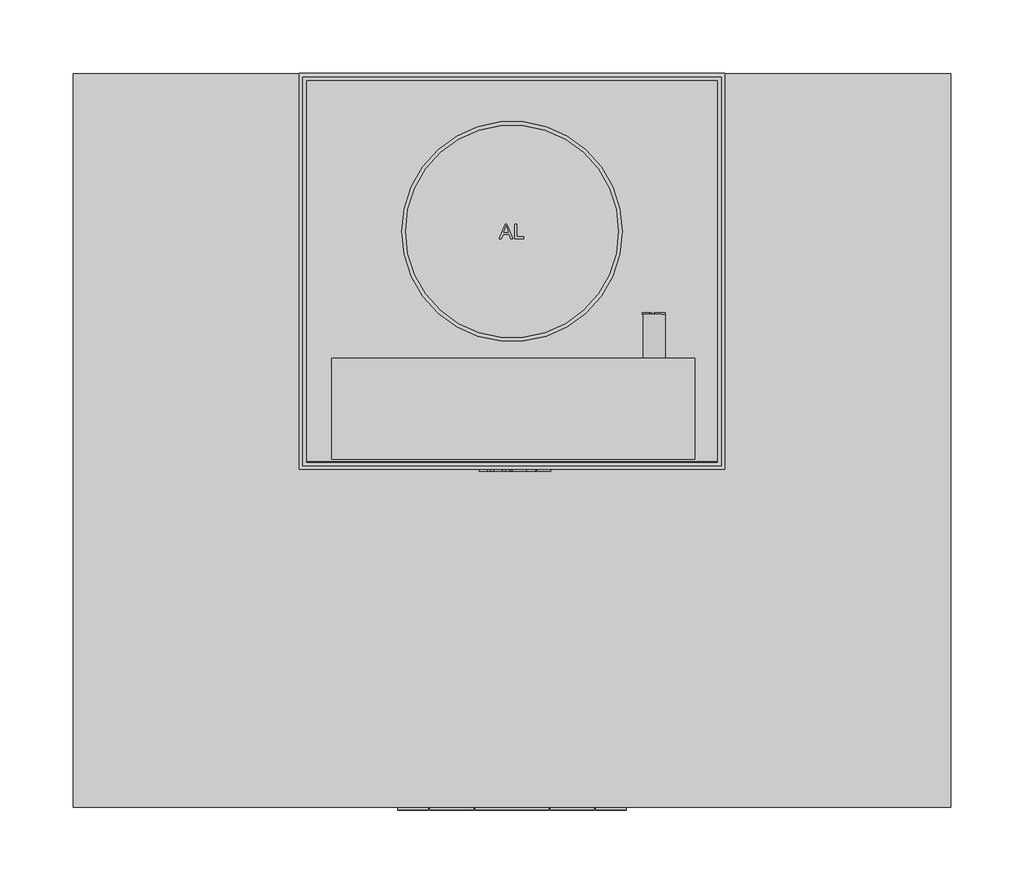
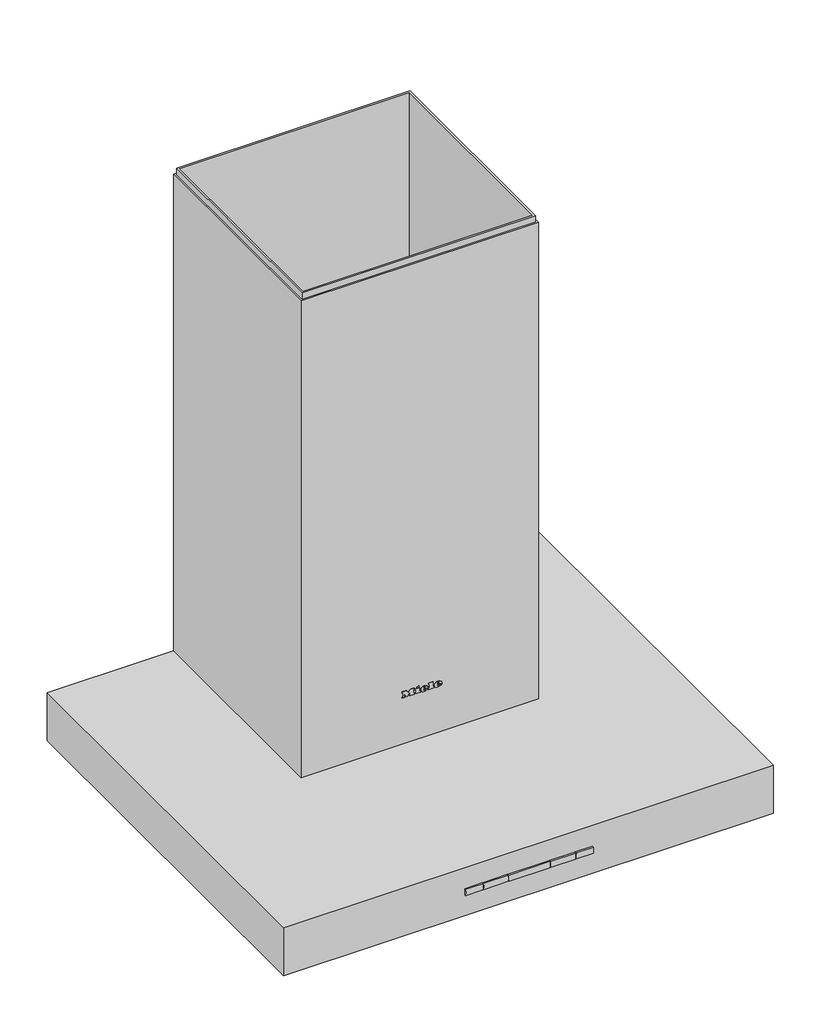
# Not in any storey: 1 proxy.
"""IFC4 building model written with IfcOpenShell, lengths in millimetres."""

import ifcopenshell
import ifcopenshell.guid

model = None  # the IFC model being written
_history = None  # IfcOwnerHistory: only IFC2X3 demands one
_inside = {}  # id of a spatial element -> (the spatial element, [elements in it])
_under = {}  # id of a project, library or spatial element -> (it, [spatial elements below it])
_declared = {}  # id of a project -> (the project, [libraries it declares])
_typed = {}  # id of a type object -> (the type object, [elements of that type])
_made_of = {}  # id of a material, layer set ... -> (it, [elements and type objects made of it])


def new_model(schema):
    """Start an empty IFC model of exactly this schema.

    Asked for "IFC4X3", IfcOpenShell would pick the latest addendum, in which some entities
    have other attributes; the version numbers below select the first issue.
    IFC2X3 requires an IfcOwnerHistory on every rooted entity: one is made here for all.
    """
    global model, _history
    if schema == "IFC4X3":
        model = ifcopenshell.file(schema_version=(4, 3, 0, 0))
    else:
        model = ifcopenshell.file(schema=schema)
    _inside.clear()
    _under.clear()
    _declared.clear()
    _typed.clear()
    _made_of.clear()
    _history = None
    if model.schema == "IFC2X3":
        org = make("IfcOrganization", Name="unknown")
        user = make(
            "IfcPersonAndOrganization",
            ThePerson=make("IfcPerson", FamilyName="unknown"),
            TheOrganization=org,
        )
        app = make(
            "IfcApplication",
            ApplicationDeveloper=org,
            Version="unknown",
            ApplicationFullName="unknown",
            ApplicationIdentifier="unknown",
        )
        _history = make(
            "IfcOwnerHistory",
            OwningUser=user,
            OwningApplication=app,
            ChangeAction="ADDED",
            CreationDate=0,
        )
    return model


def make(cls, **values):
    """One entity of the class cls with the attributes given. An attribute that is None is left unset."""
    return model.create_entity(
        cls, **{name: value for name, value in values.items() if value is not None}
    )


def rooted(cls, **values):
    """An entity with a GlobalId (a new one), such as an element, a storey or a relation."""
    return make(cls, GlobalId=ifcopenshell.guid.new(), OwnerHistory=_history, **values)


def si_unit(unit_type, name, prefix=None):
    """IfcSIUnit, for example si_unit("LENGTHUNIT", "METRE", prefix="MILLI")."""
    return make("IfcSIUnit", UnitType=unit_type, Prefix=prefix, Name=name)


def assignment(units):
    """IfcUnitAssignment: the units of a project."""
    return None if units is None else make("IfcUnitAssignment", Units=units)


def point(xyz):
    """IfcCartesianPoint."""
    return None if xyz is None else make("IfcCartesianPoint", Coordinates=xyz)


def direction(xyz):
    """IfcDirection."""
    return None if xyz is None else make("IfcDirection", DirectionRatios=xyz)


def frame(location, z_axis=None, x_axis=None):
    """IfcAxis2Placement3D, a coordinate frame: its origin and axes. An axis left out is left unset."""
    return make(
        "IfcAxis2Placement3D",
        Location=point(location),
        Axis=direction(z_axis),
        RefDirection=direction(x_axis),
    )


def frame_2d(location, x_axis=None):
    """IfcAxis2Placement2D, a coordinate frame in the plane: its origin and x axis."""
    return make(
        "IfcAxis2Placement2D", Location=point(location), RefDirection=direction(x_axis)
    )


def origin():
    """The frame at (0, 0, 0) with its axes left unset."""
    return frame((0.0, 0.0, 0.0))


def place(relative_to, where):
    """IfcLocalPlacement: puts the frame where relative to a parent placement (None: the world)."""
    return make(
        "IfcLocalPlacement", PlacementRelTo=relative_to, RelativePlacement=where
    )


def context(
    kind, dimensions, precision=None, world=None, true_north=None, identifier=None
):
    """IfcGeometricRepresentationContext, for example the 3D "Model" context."""
    return make(
        "IfcGeometricRepresentationContext",
        ContextIdentifier=identifier,
        ContextType=kind,
        CoordinateSpaceDimension=dimensions,
        Precision=precision,
        WorldCoordinateSystem=world,
        TrueNorth=true_north,
    )


def project(units=None, contexts=None):
    """IfcProject with its units and contexts."""
    return rooted(
        "IfcProject",
        Name="project",
        RepresentationContexts=contexts,
        UnitsInContext=assignment(units),
    )


def spatial(cls, under=None, at=None, **own):
    """A site, building, storey or space (cls), placed at a placement, below another one or the project."""
    s = rooted(cls, ObjectPlacement=at, **own)
    if under is not None:
        _under.setdefault(under.id(), (under, []))[1].append(s)
    return s


def polyline(points):
    """IfcPolyline through the points."""
    return make("IfcPolyline", Points=[point(p) for p in points])


def circle_curve(where, radius):
    """IfcCircle in the frame where."""
    return make("IfcCircle", Position=where, Radius=radius)


def ellipse_curve(where, semi_axis1, semi_axis2):
    """IfcEllipse in the frame where."""
    return make(
        "IfcEllipse", Position=where, SemiAxis1=semi_axis1, SemiAxis2=semi_axis2
    )


def trimmed(basis, trim1, trim2, sense, master):
    """IfcTrimmedCurve: the piece of a basis curve between two trims."""
    return make(
        "IfcTrimmedCurve",
        BasisCurve=basis,
        Trim1=trim1,
        Trim2=trim2,
        SenseAgreement=sense,
        MasterRepresentation=master,
    )


def segment(curve, same_sense, transition):
    """IfcCompositeCurveSegment."""
    return make(
        "IfcCompositeCurveSegment",
        Transition=transition,
        SameSense=same_sense,
        ParentCurve=curve,
    )


def composite_curve(segments, self_intersect=None):
    """IfcCompositeCurve: segments joined end to end."""
    return make("IfcCompositeCurve", Segments=segments, SelfIntersect=self_intersect)


def outline(outer, holes=None, kind="AREA"):
    """IfcArbitraryClosedProfileDef: a profile drawn as a closed curve; with holes, ...WithVoids."""
    if holes is None:
        return make("IfcArbitraryClosedProfileDef", ProfileType=kind, OuterCurve=outer)
    return make(
        "IfcArbitraryProfileDefWithVoids",
        ProfileType=kind,
        OuterCurve=outer,
        InnerCurves=holes,
    )


def extrude(swept, where, along, depth):
    """IfcExtrudedAreaSolid: the profile swept, set in the frame where, extruded along a direction by depth."""
    return make(
        "IfcExtrudedAreaSolid",
        SweptArea=swept,
        Position=where,
        ExtrudedDirection=direction(along),
        Depth=depth,
    )


def faces_of(points, faces, orient=None, outer=None):
    """IfcFace entities. A face is a list of loops; a loop is a list of indices into points, from 0.

    orient and outer hold one flag for each loop. By default every Orientation is true, the
    first loop of a face is its IfcFaceOuterBound and the others are IfcFaceBound.
    """
    made = []
    for i, loops in enumerate(faces):
        bounds = []
        for j, loop in enumerate(loops):
            is_outer = j == 0 if outer is None else outer[i][j]
            bounds.append(
                make(
                    "IfcFaceOuterBound" if is_outer else "IfcFaceBound",
                    Bound=make("IfcPolyLoop", Polygon=[points[k] for k in loop]),
                    Orientation=True if orient is None else orient[i][j],
                )
            )
        made.append(make("IfcFace", Bounds=bounds))
    return made


def faceted_brep(points, faces, orient=None, outer=None, voids=None):
    """IfcFacetedBrep: a solid bounded by flat faces; with voids (closed shells), ...WithVoids."""
    shared = [point(p) for p in points]
    hull = make("IfcClosedShell", CfsFaces=faces_of(shared, faces, orient, outer))
    if voids is None:
        return make("IfcFacetedBrep", Outer=hull)
    return make(
        "IfcFacetedBrepWithVoids",
        Outer=hull,
        Voids=[
            make(cls, CfsFaces=faces_of(shared, fs, o, b)) for cls, fs, o, b in voids
        ],
    )


def shape(context_of_items, identifier, shape_type, items):
    """IfcShapeRepresentation: the items that make up one representation, for example the "Body"."""
    return make(
        "IfcShapeRepresentation",
        ContextOfItems=context_of_items,
        RepresentationIdentifier=identifier,
        RepresentationType=shape_type,
        Items=items,
    )


def source(mapping_origin, context_of_items, identifier, shape_type, items):
    """IfcRepresentationMap: a shape defined once, which mapped items show again and again."""
    return make(
        "IfcRepresentationMap",
        MappingOrigin=mapping_origin,
        MappedRepresentation=shape(context_of_items, identifier, shape_type, items),
    )


def transform(
    local_origin,
    x_axis=None,
    y_axis=None,
    z_axis=None,
    scale=None,
    scale2=None,
    scale3=None,
    uniform=True,
):
    """IfcCartesianTransformationOperator3D, or its non-uniform kind. x_axis, y_axis, z_axis: its Axis1, 2, 3."""
    if uniform:
        return make(
            "IfcCartesianTransformationOperator3D",
            Axis1=direction(x_axis),
            Axis2=direction(y_axis),
            LocalOrigin=point(local_origin),
            Scale=scale,
            Axis3=direction(z_axis),
        )
    return make(
        "IfcCartesianTransformationOperator3DnonUniform",
        Axis1=direction(x_axis),
        Axis2=direction(y_axis),
        LocalOrigin=point(local_origin),
        Scale=scale,
        Axis3=direction(z_axis),
        Scale2=scale2,
        Scale3=scale3,
    )


def mapped(mapping_source, mapping_target):
    """IfcMappedItem: shows the shape of a source again, moved by a transform."""
    return make(
        "IfcMappedItem", MappingSource=mapping_source, MappingTarget=mapping_target
    )


def made_of(thing, what):
    """Note that an element or type object is made of a material, layer set ...; save() writes the relation."""
    if what is not None:
        _made_of.setdefault(what.id(), (what, []))[1].append(thing)
    return thing


def element(
    cls,
    number,
    at=None,
    inside=None,
    cuts=None,
    type_object=None,
    material=None,
    context=None,
    identifier="Body",
    shape_type=None,
    held_by="IfcProductDefinitionShape",
    body=None,
    shapes=None,
    **own,
):
    """One element of the class cls, such as IfcWall. Its Tag is "e" and its number.

    at: its placement. inside: the storey or other place that contains it. cuts: it is an
    opening in that element (IfcRelVoidsElement). A single representation is given by context,
    identifier, shape_type and body (its items); several are given by shapes. held_by: the class
    of the entity that holds the representations. save() writes the other relations.
    """
    e = rooted(cls, Tag="e%d" % number, ObjectPlacement=at, **own)
    if body is not None:
        shapes = [shape(context, identifier, shape_type, body)]
    if shapes is not None:
        e.Representation = make(held_by, Representations=shapes)
    if inside is not None:
        _inside.setdefault(inside.id(), (inside, []))[1].append(e)
    if cuts is not None:
        rooted(
            "IfcRelVoidsElement", RelatingBuildingElement=cuts, RelatedOpeningElement=e
        )
    if type_object is not None:
        _typed.setdefault(type_object.id(), (type_object, []))[1].append(e)
    return made_of(e, material)


def aggregate(whole, parts):
    """IfcRelAggregates: a whole, such as a stair, and the parts it consists of."""
    return rooted("IfcRelAggregates", RelatingObject=whole, RelatedObjects=parts)


def save(model, path):
    """Write the relations noted so far, then the file.

    IfcRelAggregates (storeys below a building ...), IfcRelContainedInSpatialStructure (elements
    in a storey), IfcRelDefinesByType, IfcRelAssociatesMaterial and IfcRelDeclares: one each for
    every whole, place, type object, material and project.
    """
    for whole, parts in _under.values():
        aggregate(whole, parts)
    for where, things in _inside.values():
        rooted(
            "IfcRelContainedInSpatialStructure",
            RelatedElements=things,
            RelatingStructure=where,
        )
    for kind, things in _typed.values():
        rooted("IfcRelDefinesByType", RelatedObjects=things, RelatingType=kind)
    for what, things in _made_of.values():
        rooted("IfcRelAssociatesMaterial", RelatedObjects=things, RelatingMaterial=what)
    for by, libraries in _declared.values():
        rooted("IfcRelDeclares", RelatingContext=by, RelatedDefinitions=libraries)
    model.write(path)


def plane_surface(at):
    """IfcPlane: the flat surface through the origin of the frame at, square to its z axis."""
    return make("IfcPlane", Position=at)


def cylinder_surface(at, radius):
    """IfcCylindricalSurface: all points at the distance radius from the z axis of the frame at."""
    return make("IfcCylindricalSurface", Position=at, Radius=radius)


def revolved_surface(curve, axis_point, axis_direction):
    """IfcSurfaceOfRevolution: the curve turned about the line through axis_point along axis_direction."""
    return make(
        "IfcSurfaceOfRevolution",
        SweptCurve=make("IfcArbitraryOpenProfileDef", ProfileType="CURVE", Curve=curve),
        AxisPosition=make("IfcAxis1Placement", Location=point(axis_point), Axis=direction(axis_direction)),
    )


def extruded_surface(curve, direction_of_extrusion, depth):
    """IfcSurfaceOfLinearExtrusion: the curve pushed along a direction by depth."""
    return make(
        "IfcSurfaceOfLinearExtrusion",
        SweptCurve=make("IfcArbitraryOpenProfileDef", ProfileType="CURVE", Curve=curve),
        ExtrudedDirection=direction(direction_of_extrusion),
        Depth=depth,
    )


def advanced_brep(points, edges, surfaces, faces):
    """IfcAdvancedBrep: a solid bounded by faces that lie on surfaces and meet in shared edges.

    An edge is (start, end): straight between two places in points (the first is 0);
    or (start, end, curve); or (start, end, curve, False) where it runs against its curve.
    A face is (place in surfaces, loops), or (place, loops, False) where it looks against
    its surface's normal. A loop lists edges by number (the first is 1), with a minus sign
    where the edge is run from its end to its start. The first loop is the outer one.
    """
    corners = [point(p) for p in points]
    vertices = [make("IfcVertexPoint", VertexGeometry=c) for c in corners]
    made = []
    for start, end, *more in edges:
        made.append(
            make(
                "IfcEdgeCurve",
                EdgeStart=vertices[start],
                EdgeEnd=vertices[end],
                EdgeGeometry=more[0] if more else make("IfcPolyline", Points=[corners[start], corners[end]]),
                SameSense=more[1] if len(more) > 1 else True,
            )
        )
    hull = []
    for where, loops, *sense in faces:
        bounds = []
        for j, loop in enumerate(loops):
            ring = [make("IfcOrientedEdge", EdgeElement=made[abs(k) - 1], Orientation=k > 0) for k in loop]
            bounds.append(
                make(
                    "IfcFaceOuterBound" if j == 0 else "IfcFaceBound",
                    Bound=make("IfcEdgeLoop", EdgeList=ring),
                    Orientation=True,
                )
            )
        hull.append(make("IfcAdvancedFace", Bounds=bounds, FaceSurface=surfaces[where], SameSense=sense[0] if sense else True))
    return make("IfcAdvancedBrep", Outer=make("IfcClosedShell", CfsFaces=hull))


def specialty_equipment_f181dd9d(model_context):
    return source(origin(), model_context, "Body", "SolidModel", [
        advanced_brep(
        [(-146.5433287, -435.7, 0.8), (-93.4566713, -435.7, 0.8), (-90.883263, -435.7, 2.0), (-149.116737, -435.7, 2.0), (-120.0, -435.7, 0.8), (-120.0, -435.7, 2.0)],
        [
            (0, 1, circle_curve(frame((-120.0, -435.7, 0.8), z_axis=(0.0, 0.0, 1.0), x_axis=(1.0, 0.0, 0.0)), 26.5433287)),
            (1, 2),
            (2, 3, circle_curve(frame((-120.0, -435.7, 2.0), z_axis=(0.0, 0.0, -1.0), x_axis=(1.0, 0.0, 0.0)), 29.116737)),
            (3, 0),
            (1, 0, circle_curve(frame((-120.0, -435.7, 0.8), z_axis=(0.0, 0.0, 1.0), x_axis=(1.0, 0.0, 0.0)), 26.5433287)),
            (3, 2, circle_curve(frame((-120.0, -435.7, 2.0), z_axis=(0.0, 0.0, -1.0), x_axis=(1.0, 0.0, 0.0)), 29.116737)),
            (0, 4),
            (4, 1),
            (2, 5),
            (5, 3),
        ],
        [
            revolved_surface(polyline([(-90.883263, -435.7, 2.0), (-93.4566713, -435.7, 0.8)]), (-120.0, -435.7, 2240.4), (0.0, 0.0, -1.0)),
            plane_surface(frame((-120.0, -435.7, 0.8), z_axis=(0.0, 0.0, -1.0), x_axis=(1.0, 0.0, 0.0))),
            plane_surface(frame((-120.0, -435.7, 2.0), z_axis=(0.0, 0.0, 1.0), x_axis=(1.0, 0.0, 0.0))),
        ],
        [
            (0, [[1, 2, 3, 4]]),
            (0, [[-2, 5, -4, 6]]),
            (1, [[-1, 7, 8]]),
            (1, [[-5, -8, -7]]),
            (2, [[-3, 9, 10]]),
            (2, [[-6, -10, -9]]),
        ],
    ),
        advanced_brep(
        [(93.4566713, -435.7, 0.8), (146.5433287, -435.7, 0.8), (149.116737, -435.7, 2.0), (90.883263, -435.7, 2.0), (120.0, -435.7, 0.8), (120.0, -435.7, 2.0)],
        [
            (0, 1, circle_curve(frame((120.0, -435.7, 0.8), z_axis=(0.0, 0.0, 1.0), x_axis=(1.0, 0.0, 0.0)), 26.5433287)),
            (1, 2),
            (2, 3, circle_curve(frame((120.0, -435.7, 2.0), z_axis=(0.0, 0.0, -1.0), x_axis=(1.0, 0.0, 0.0)), 29.116737)),
            (3, 0),
            (1, 0, circle_curve(frame((120.0, -435.7, 0.8), z_axis=(0.0, 0.0, 1.0), x_axis=(1.0, 0.0, 0.0)), 26.5433287)),
            (3, 2, circle_curve(frame((120.0, -435.7, 2.0), z_axis=(0.0, 0.0, -1.0), x_axis=(1.0, 0.0, 0.0)), 29.116737)),
            (0, 4),
            (4, 1),
            (2, 5),
            (5, 3),
        ],
        [
            revolved_surface(polyline([(149.116737, -435.7, 2.0), (146.5433287, -435.7, 0.8)]), (120.0, -435.7, 2240.4), (0.0, 0.0, -1.0)),
            plane_surface(frame((120.0, -435.7, 0.8), z_axis=(0.0, 0.0, -1.0), x_axis=(1.0, 0.0, 0.0))),
            plane_surface(frame((120.0, -435.7, 2.0), z_axis=(0.0, 0.0, 1.0), x_axis=(1.0, 0.0, 0.0))),
        ],
        [
            (0, [[1, 2, 3, 4]]),
            (0, [[-2, 5, -4, 6]]),
            (1, [[-1, 7, 8]]),
            (1, [[-5, -8, -7]]),
            (2, [[-3, 9, 10]]),
            (2, [[-6, -10, -9]]),
        ],
    ),
        extrude(outline(polyline([(9.0, -34.0), (271.0, -34.0), (271.0, -391.0), (9.0, -391.0), (9.0, -34.0)])), frame((0.0, 0.0, 6.5), z_axis=(0.0, 0.0, 1.0), x_axis=(1.0, 0.0, 0.0)), (0.0, 0.0, 1.0), 6.0),
        extrude(outline(polyline([(0.0, -25.0), (280.0, -25.0), (280.0, -400.0), (0.0, -400.0), (0.0, -25.0)]), holes=[polyline([(9.0, -34.0), (9.0, -391.0), (271.0, -391.0), (271.0, -34.0), (9.0, -34.0)])]), frame((0.0, 0.0, 5.0), z_axis=(0.0, 0.0, 1.0), x_axis=(1.0, 0.0, 0.0)), (0.0, 0.0, 1.0), 9.0),
        extrude(outline(polyline([(-9.0, -34.0), (-9.0, -391.0), (-271.0, -391.0), (-271.0, -34.0), (-9.0, -34.0)])), frame((0.0, 0.0, 6.5), z_axis=(0.0, 0.0, 1.0), x_axis=(1.0, 0.0, 0.0)), (0.0, 0.0, 1.0), 6.0),
        extrude(outline(polyline([(0.0, -25.0), (0.0, -400.0), (-280.0, -400.0), (-280.0, -25.0), (0.0, -25.0)]), holes=[polyline([(-9.0, -34.0), (-271.0, -34.0), (-271.0, -391.0), (-9.0, -391.0), (-9.0, -34.0)])]), frame((0.0, 0.0, 5.0), z_axis=(0.0, 0.0, 1.0), x_axis=(1.0, 0.0, 0.0)), (0.0, 0.0, 1.0), 9.0),
        extrude(outline(polyline([(123.5, -348.0), (156.5, -348.0), (156.5, -391.0), (123.5, -391.0), (123.5, -348.0)]), holes=[polyline([(130.0, -354.5), (130.0, -363.5), (149.7714328, -363.5), (149.7714328, -354.5), (130.0, -354.5)])]), frame((0.0, 0.0, 5.0), z_axis=(0.0, 0.0, 1.0), x_axis=(1.0, 0.0, 0.0)), (0.0, 0.0, 1.0), 1.5),
        extrude(outline(polyline([(-123.5, -348.0), (-123.5, -391.0), (-156.5, -391.0), (-156.5, -348.0), (-123.5, -348.0)]), holes=[polyline([(-130.0, -354.5), (-150.0, -354.5), (-150.0, -363.5), (-130.0, -363.5), (-130.0, -354.5)])]), frame((0.0, 0.0, 5.0), z_axis=(0.0, 0.0, 1.0), x_axis=(1.0, 0.0, 0.0)), (0.0, 0.0, 1.0), 1.5),
        faceted_brep([(140.0, -5.0, 685.0), (-140.0, -5.0, 685.0), (-140.0, -5.0, 210.0), (140.0, -5.0, 210.0), (-140.0, -265.0, 685.0), (140.0, -265.0, 685.0), (140.0, -265.0, 210.0), (-140.0, -265.0, 210.0), (121.0, -265.0, 245.0), (121.0, -265.0, 345.0), (109.0, -265.0, 345.0), (109.0, -265.0, 245.0), (-121.0, -265.0, 345.0), (-121.0, -265.0, 245.0), (-109.0, -265.0, 245.0), (-109.0, -265.0, 345.0), (-86.0, -265.0, 345.0), (-97.5, -265.0, 345.0), (-97.5, -265.0, 245.0), (-86.0, -265.0, 245.0), (-63.0, -265.0, 345.0), (-74.5, -265.0, 345.0), (-74.5, -265.0, 245.0), (-63.0, -265.0, 245.0), (-40.0, -265.0, 345.0), (-51.5, -265.0, 345.0), (-51.5, -265.0, 245.0), (-40.0, -265.0, 245.0), (-17.0, -265.0, 345.0), (-28.5, -265.0, 345.0), (-28.5, -265.0, 245.0), (-17.0, -265.0, 245.0), (5.5, -265.0, 345.0), (-5.5, -265.0, 345.0), (-5.5, -265.0, 245.0), (5.5, -265.0, 245.0), (28.5, -265.0, 345.0), (17.0, -265.0, 345.0), (17.0, -265.0, 245.0), (28.5, -265.0, 245.0), (51.5, -265.0, 345.0), (40.0, -265.0, 345.0), (40.0, -265.0, 245.0), (51.5, -265.0, 245.0), (74.5, -265.0, 345.0), (63.0, -265.0, 345.0), (63.0, -265.0, 245.0), (74.5, -265.0, 245.0), (97.5, -265.0, 345.0), (86.0, -265.0, 345.0), (86.0, -265.0, 245.0), (97.5, -265.0, 245.0), (-142.5, -65.4, 245.0), (-140.0, -65.4, 245.0), (-140.0, -65.4, 345.0), (-142.5, -65.4, 345.0), (-140.0, -76.0, 345.0), (-142.5, -76.0, 345.0), (-140.0, -44.2, 245.0), (-142.5, -44.2, 245.0), (-142.5, -54.8, 245.0), (-140.0, -54.8, 245.0), (-140.0, -44.2, 345.0), (-142.5, -44.2, 345.0), (-140.0, -23.0, 245.0), (-142.5, -23.0, 245.0), (-142.5, -33.6, 245.0), (-140.0, -33.6, 245.0), (-140.0, -23.0, 345.0), (-142.5, -23.0, 345.0), (-121.0, -267.5, 345.0), (-109.0, -267.5, 345.0), (-109.0, -267.5, 245.0), (-86.0, -267.5, 345.0), (-97.5, -267.5, 345.0), (-63.0, -267.5, 345.0), (-74.5, -267.5, 345.0), (-40.0, -267.5, 345.0), (-51.5, -267.5, 345.0), (-17.0, -267.5, 345.0), (-28.5, -267.5, 345.0), (5.5, -267.5, 345.0), (-5.5, -267.5, 345.0), (28.5, -267.5, 345.0), (17.0, -267.5, 345.0), (51.5, -267.5, 345.0), (40.0, -267.5, 345.0), (74.5, -267.5, 345.0), (63.0, -267.5, 345.0), (97.5, -267.5, 345.0), (86.0, -267.5, 345.0), (-142.5, -267.5, 685.0), (142.5, -267.5, 685.0), (142.5, -2.5, 685.0), (-142.5, -2.5, 685.0), (-142.5, -267.5, 210.0), (-142.5, -2.5, 210.0), (142.5, -2.5, 210.0), (142.5, -267.5, 210.0), (-142.5, -247.0, 245.0), (-142.5, -236.4, 245.0), (-142.5, -236.4, 345.0), (-142.5, -247.0, 345.0), (-142.5, -225.8, 245.0), (-142.5, -215.2, 245.0), (-142.5, -215.2, 345.0), (-142.5, -225.8, 345.0), (-142.5, -204.6, 245.0), (-142.5, -194.0, 245.0), (-142.5, -194.0, 345.0), (-142.5, -204.6, 345.0), (-142.5, -183.4, 245.0), (-142.5, -172.8, 245.0), (-142.5, -172.8, 345.0), (-142.5, -183.4, 345.0), (-142.5, -162.2, 245.0), (-142.5, -151.6, 245.0), (-142.5, -151.6, 345.0), (-142.5, -162.2, 345.0), (-142.5, -141.0, 245.0), (-142.5, -129.0, 245.0), (-142.5, -129.0, 345.0), (-142.5, -141.0, 345.0), (-142.5, -118.4, 245.0), (-142.5, -107.8, 245.0), (-142.5, -107.8, 345.0), (-142.5, -118.4, 345.0), (-142.5, -97.2, 245.0), (-142.5, -86.6, 245.0), (-142.5, -86.6, 345.0), (-142.5, -97.2, 345.0), (-142.5, -76.0, 245.0), (-142.5, -54.8, 345.0), (-142.5, -33.6, 345.0), (-140.0, -236.4, 245.0), (-140.0, -247.0, 245.0), (-140.0, -247.0, 345.0), (-140.0, -236.4, 345.0), (-140.0, -215.2, 245.0), (-140.0, -225.8, 245.0), (-140.0, -225.8, 345.0), (-140.0, -215.2, 345.0), (-140.0, -194.0, 245.0), (-140.0, -204.6, 245.0), (-140.0, -204.6, 345.0), (-140.0, -194.0, 345.0), (-140.0, -172.8, 245.0), (-140.0, -183.4, 245.0), (-140.0, -183.4, 345.0), (-140.0, -172.8, 345.0), (-140.0, -151.6, 245.0), (-140.0, -162.2, 245.0), (-140.0, -162.2, 345.0), (-140.0, -151.6, 345.0), (-140.0, -129.0, 245.0), (-140.0, -141.0, 245.0), (-140.0, -141.0, 345.0), (-140.0, -129.0, 345.0), (-140.0, -107.8, 245.0), (-140.0, -118.4, 245.0), (-140.0, -118.4, 345.0), (-140.0, -107.8, 345.0), (-140.0, -86.6, 245.0), (-140.0, -97.2, 245.0), (-140.0, -97.2, 345.0), (-140.0, -86.6, 345.0), (-140.0, -76.0, 245.0), (-140.0, -54.8, 345.0), (-140.0, -33.6, 345.0), (140.0, -162.2, 345.0), (140.0, -162.2, 245.0), (140.0, -151.6, 245.0), (140.0, -151.6, 345.0), (140.0, -44.2, 245.0), (140.0, -44.2, 345.0), (140.0, -54.8, 345.0), (140.0, -54.8, 245.0), (140.0, -65.4, 245.0), (140.0, -65.4, 345.0), (140.0, -76.0, 345.0), (140.0, -76.0, 245.0), (140.0, -86.6, 245.0), (140.0, -86.6, 345.0), (140.0, -97.2, 345.0), (140.0, -97.2, 245.0), (140.0, -107.8, 245.0), (140.0, -107.8, 345.0), (140.0, -118.4, 345.0), (140.0, -118.4, 245.0), (140.0, -129.0, 245.0), (140.0, -129.0, 345.0), (140.0, -141.0, 345.0), (140.0, -141.0, 245.0), (140.0, -247.0, 345.0), (140.0, -247.0, 245.0), (140.0, -236.4, 245.0), (140.0, -236.4, 345.0), (140.0, -23.0, 245.0), (140.0, -23.0, 345.0), (140.0, -33.6, 345.0), (140.0, -33.6, 245.0), (140.0, -225.8, 345.0), (140.0, -225.8, 245.0), (140.0, -215.2, 245.0), (140.0, -215.2, 345.0), (140.0, -204.6, 345.0), (140.0, -204.6, 245.0), (140.0, -194.0, 245.0), (140.0, -194.0, 345.0), (140.0, -183.4, 345.0), (140.0, -183.4, 245.0), (140.0, -172.8, 245.0), (140.0, -172.8, 345.0), (142.5, -225.8, 245.0), (142.5, -225.8, 345.0), (142.5, -215.2, 345.0), (142.5, -215.2, 245.0), (142.5, -204.6, 245.0), (142.5, -204.6, 345.0), (142.5, -194.0, 345.0), (142.5, -194.0, 245.0), (142.5, -183.4, 245.0), (142.5, -183.4, 345.0), (142.5, -172.8, 345.0), (142.5, -172.8, 245.0), (142.5, -162.2, 245.0), (142.5, -162.2, 345.0), (142.5, -151.6, 345.0), (142.5, -151.6, 245.0), (142.5, -44.2, 345.0), (142.5, -44.2, 245.0), (142.5, -54.8, 245.0), (142.5, -54.8, 345.0), (142.5, -65.4, 345.0), (142.5, -65.4, 245.0), (142.5, -76.0, 245.0), (142.5, -76.0, 345.0), (142.5, -86.6, 345.0), (142.5, -86.6, 245.0), (142.5, -97.2, 245.0), (142.5, -97.2, 345.0), (142.5, -107.8, 345.0), (142.5, -107.8, 245.0), (142.5, -118.4, 245.0), (142.5, -118.4, 345.0), (142.5, -129.0, 345.0), (142.5, -129.0, 245.0), (142.5, -141.0, 245.0), (142.5, -141.0, 345.0), (142.5, -23.0, 345.0), (142.5, -23.0, 245.0), (142.5, -33.6, 245.0), (142.5, -33.6, 345.0), (142.5, -247.0, 245.0), (142.5, -247.0, 345.0), (142.5, -236.4, 345.0), (142.5, -236.4, 245.0), (-86.0, -267.5, 245.0), (-97.5, -267.5, 245.0), (-63.0, -267.5, 245.0), (-74.5, -267.5, 245.0), (-40.0, -267.5, 245.0), (-51.5, -267.5, 245.0), (-17.0, -267.5, 245.0), (-28.5, -267.5, 245.0), (5.5, -267.5, 245.0), (-5.5, -267.5, 245.0), (28.5, -267.5, 245.0), (17.0, -267.5, 245.0), (51.5, -267.5, 245.0), (40.0, -267.5, 245.0), (74.5, -267.5, 245.0), (63.0, -267.5, 245.0), (97.5, -267.5, 245.0), (86.0, -267.5, 245.0), (121.0, -267.5, 345.0), (121.0, -267.5, 245.0), (109.0, -267.5, 245.0), (109.0, -267.5, 345.0), (-121.0, -267.5, 245.0)], [[[0, 1, 2, 3]], [[4, 5, 6, 7], [8, 9, 10, 11], [12, 13, 14, 15], [16, 17, 18, 19], [20, 21, 22, 23], [24, 25, 26, 27], [28, 29, 30, 31], [32, 33, 34, 35], [36, 37, 38, 39], [40, 41, 42, 43], [44, 45, 46, 47], [48, 49, 50, 51]], [[52, 53, 54, 55]], [[55, 54, 56, 57]], [[58, 59, 60, 61]], [[59, 58, 62, 63]], [[64, 65, 66, 67]], [[65, 64, 68, 69]], [[70, 12, 15, 71]], [[71, 15, 14, 72]], [[16, 73, 74, 17]], [[20, 75, 76, 21]], [[24, 77, 78, 25]], [[28, 79, 80, 29]], [[32, 81, 82, 33]], [[36, 83, 84, 37]], [[40, 85, 86, 41]], [[44, 87, 88, 45]], [[48, 89, 90, 49]], [[91, 92, 93, 94], [0, 5, 4, 1]], [[95, 96, 97, 98], [3, 2, 7, 6]], [[91, 94, 96, 95], [99, 100, 101, 102], [103, 104, 105, 106], [107, 108, 109, 110], [111, 112, 113, 114], [115, 116, 117, 118], [119, 120, 121, 122], [123, 124, 125, 126], [127, 128, 129, 130], [131, 52, 55, 57], [60, 59, 63, 132], [66, 65, 69, 133]], [[1, 4, 7, 2], [134, 135, 136, 137], [138, 139, 140, 141], [142, 143, 144, 145], [146, 147, 148, 149], [150, 151, 152, 153], [154, 155, 156, 157], [158, 159, 160, 161], [162, 163, 164, 165], [53, 166, 56, 54], [58, 61, 167, 62], [64, 67, 168, 68]], [[5, 0, 3, 6], [169, 170, 171, 172], [173, 174, 175, 176], [177, 178, 179, 180], [181, 182, 183, 184], [185, 186, 187, 188], [189, 190, 191, 192], [193, 194, 195, 196], [197, 198, 199, 200], [201, 202, 203, 204], [205, 206, 207, 208], [209, 210, 211, 212]], [[93, 92, 98, 97], [213, 214, 215, 216], [217, 218, 219, 220], [221, 222, 223, 224], [225, 226, 227, 228], [229, 230, 231, 232], [233, 234, 235, 236], [237, 238, 239, 240], [241, 242, 243, 244], [245, 246, 247, 248], [249, 250, 251, 252], [253, 254, 255, 256]], [[92, 91, 95, 98], [74, 73, 257, 258], [76, 75, 259, 260], [78, 77, 261, 262], [80, 79, 263, 264], [82, 81, 265, 266], [84, 83, 267, 268], [86, 85, 269, 270], [88, 87, 271, 272], [90, 89, 273, 274], [275, 276, 277, 278], [279, 70, 71, 72]], [[94, 93, 97, 96]], [[8, 276, 275, 9]], [[12, 70, 279, 13]], [[253, 194, 193, 254]], [[249, 198, 197, 250]], [[194, 253, 256, 195]], [[195, 256, 255, 196]], [[254, 193, 196, 255]], [[198, 249, 252, 199]], [[199, 252, 251, 200]], [[250, 197, 200, 251]], [[213, 202, 201, 214]], [[202, 213, 216, 203]], [[203, 216, 215, 204]], [[214, 201, 204, 215]], [[217, 206, 205, 218]], [[206, 217, 220, 207]], [[207, 220, 219, 208]], [[218, 205, 208, 219]], [[221, 210, 209, 222]], [[210, 221, 224, 211]], [[211, 224, 223, 212]], [[222, 209, 212, 223]], [[225, 170, 169, 226]], [[170, 225, 228, 171]], [[171, 228, 227, 172]], [[226, 169, 172, 227]], [[229, 174, 173, 230]], [[174, 229, 232, 175]], [[175, 232, 231, 176]], [[230, 173, 176, 231]], [[233, 178, 177, 234]], [[178, 233, 236, 179]], [[179, 236, 235, 180]], [[234, 177, 180, 235]], [[237, 182, 181, 238]], [[182, 237, 240, 183]], [[183, 240, 239, 184]], [[238, 181, 184, 239]], [[241, 186, 185, 242]], [[186, 241, 244, 187]], [[187, 244, 243, 188]], [[242, 185, 188, 243]], [[245, 190, 189, 246]], [[190, 245, 248, 191]], [[191, 248, 247, 192]], [[246, 189, 192, 247]], [[134, 100, 99, 135]], [[100, 134, 137, 101]], [[101, 137, 136, 102]], [[135, 99, 102, 136]], [[138, 104, 103, 139]], [[104, 138, 141, 105]], [[105, 141, 140, 106]], [[139, 103, 106, 140]], [[142, 108, 107, 143]], [[108, 142, 145, 109]], [[109, 145, 144, 110]], [[143, 107, 110, 144]], [[146, 112, 111, 147]], [[112, 146, 149, 113]], [[113, 149, 148, 114]], [[147, 111, 114, 148]], [[150, 116, 115, 151]], [[116, 150, 153, 117]], [[117, 153, 152, 118]], [[151, 115, 118, 152]], [[154, 120, 119, 155]], [[120, 154, 157, 121]], [[121, 157, 156, 122]], [[155, 119, 122, 156]], [[158, 124, 123, 159]], [[124, 158, 161, 125]], [[125, 161, 160, 126]], [[159, 123, 126, 160]], [[162, 128, 127, 163]], [[128, 162, 165, 129]], [[129, 165, 164, 130]], [[163, 127, 130, 164]], [[53, 52, 131, 166]], [[166, 131, 57, 56]], [[63, 62, 167, 132]], [[61, 60, 132, 167]], [[69, 68, 168, 133]], [[67, 66, 133, 168]], [[13, 279, 72, 14]], [[276, 8, 11, 277]], [[277, 11, 10, 278]], [[9, 275, 278, 10]], [[73, 16, 19, 257]], [[257, 19, 18, 258]], [[17, 74, 258, 18]], [[75, 20, 23, 259]], [[259, 23, 22, 260]], [[21, 76, 260, 22]], [[77, 24, 27, 261]], [[261, 27, 26, 262]], [[25, 78, 262, 26]], [[79, 28, 31, 263]], [[263, 31, 30, 264]], [[29, 80, 264, 30]], [[81, 32, 35, 265]], [[265, 35, 34, 266]], [[33, 82, 266, 34]], [[83, 36, 39, 267]], [[267, 39, 38, 268]], [[37, 84, 268, 38]], [[85, 40, 43, 269]], [[269, 43, 42, 270]], [[41, 86, 270, 42]], [[87, 44, 47, 271]], [[271, 47, 46, 272]], [[45, 88, 272, 46]], [[89, 48, 51, 273]], [[273, 51, 50, 274]], [[49, 90, 274, 50]]]),
        extrude(outline(polyline([(145.0, 0.0), (145.0, -270.0), (-145.0, -270.0), (-145.0, 0.0), (145.0, 0.0)]), holes=[polyline([(-142.5, -2.5), (-142.5, -267.5), (142.5, -267.5), (142.5, -2.5), (-142.5, -2.5)])]), frame((0.0, 0.0, 62.0), z_axis=(0.0, 0.0, 1.0), x_axis=(1.0, 0.0, 0.0)), (0.0, 0.0, 1.0), 615.0),
        advanced_brep(
        [(21.104, -271.0, 123.896), (21.104, -271.0, 124.704), (26.456, -271.0, 124.704), (17.144, -271.0, 124.704), (19.344, -271.0, 122.0), (26.32, -271.0, 123.896), (23.904, -271.0, 123.896), (22.0, -271.0, 123.0), (21.104, -271.0, 125.728), (21.104, -271.0, 126.6), (22.472, -271.0, 126.6), (22.472, -271.0, 125.728), (21.104, -270.0, 123.896), (22.0, -270.0, 123.0), (23.904, -270.0, 123.896), (26.32, -270.0, 123.896), (19.344, -270.0, 122.0), (17.144, -270.0, 124.704), (26.456, -270.0, 124.704), (21.104, -270.0, 124.704), (21.104, -270.0, 125.728), (22.472, -270.0, 125.728), (22.472, -270.0, 126.6), (21.104, -270.0, 126.6)],
        [
            (0, 1),
            (1, 2),
            (2, 3, ellipse_curve(frame((21.8, -271.0, 124.704), z_axis=(0.0, -1.0, -1.2192856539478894e-11), x_axis=(-1.0, 0.0, 0.0)), 4.656, 3.848)),
            (3, 4, circle_curve(frame((20.2400436, -271.0, 124.976), z_axis=(0.0, -1.0, -1.2192856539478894e-11), x_axis=(0.0, 1.2192856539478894e-11, -1.0)), 3.1079688)),
            (4, 5, circle_curve(frame((21.7067936, -271.0, 127.088), z_axis=(0.0, -1.0, -1.2192856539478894e-11), x_axis=(0.0, 1.2192856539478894e-11, -1.0)), 5.6098607)),
            (5, 6),
            (6, 7, circle_curve(frame((22.3910588, -271.0, 124.64), z_axis=(0.0, 1.0, 1.2192856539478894e-11), x_axis=(0.0, 1.2192856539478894e-11, -1.0)), 1.6859795)),
            (7, 0, circle_curve(frame((22.0, -271.0, 123.896), z_axis=(0.0, 1.0, 1.2192856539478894e-11), x_axis=(0.0, 1.2192856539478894e-11, -1.0)), 0.896)),
            (8, 9),
            (9, 10, circle_curve(frame((21.788, -271.0, 126.6), z_axis=(0.0, 1.0, 1.2192856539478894e-11), x_axis=(0.0, 1.2192856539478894e-11, -1.0)), 0.684)),
            (10, 11),
            (11, 8),
            (12, 13, circle_curve(frame((22.0, -270.0, 123.896), z_axis=(0.0, -1.0, -1.2192856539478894e-11), x_axis=(0.0, 1.2192856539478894e-11, -1.0)), 0.896)),
            (13, 14, circle_curve(frame((22.3910588, -270.0, 124.64), z_axis=(0.0, -1.0, -1.2192856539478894e-11), x_axis=(0.0, 1.2192856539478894e-11, -1.0)), 1.6859795)),
            (14, 15),
            (15, 16, circle_curve(frame((21.7067936, -270.0, 127.088), z_axis=(0.0, 1.0, 1.2192856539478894e-11), x_axis=(0.0, 1.2192856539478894e-11, -1.0)), 5.6098607)),
            (16, 17, circle_curve(frame((20.2400436, -270.0, 124.976), z_axis=(0.0, 1.0, 1.2192856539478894e-11), x_axis=(0.0, 1.2192856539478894e-11, -1.0)), 3.1079688)),
            (17, 18, ellipse_curve(frame((21.8, -270.0, 124.704), z_axis=(0.0, 1.0, 1.2192856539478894e-11), x_axis=(-1.0, 0.0, 0.0)), 4.656, 3.848)),
            (18, 19),
            (19, 12),
            (20, 21),
            (21, 22),
            (22, 23, circle_curve(frame((21.788, -270.0, 126.6), z_axis=(0.0, -1.0, -1.2192856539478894e-11), x_axis=(0.0, 1.2192856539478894e-11, -1.0)), 0.684)),
            (23, 20),
            (0, 12),
            (19, 1),
            (18, 2),
            (5, 15),
            (14, 6),
            (17, 3),
            (13, 7),
            (16, 4),
            (8, 20),
            (23, 9),
            (22, 10),
            (21, 11),
        ],
        [
            plane_surface(frame((21.104, -271.0, 124.704), z_axis=(0.0, -1.0, -1.2192856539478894e-11), x_axis=(0.0, -1.2192856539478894e-11, 1.0))),
            plane_surface(frame((21.104, -270.0, 124.704), z_axis=(0.0, 1.0, 1.2192856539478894e-11), x_axis=(0.0, 1.2192856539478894e-11, -1.0))),
            plane_surface(frame((21.104, -271.0, 123.896), z_axis=(1.0, 0.0, 0.0), x_axis=(0.0, 1.0, 1.2192856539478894e-11))),
            plane_surface(frame((21.104, -271.0, 124.704), z_axis=(0.0, 1.2192856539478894e-11, -1.0), x_axis=(0.0, 1.0, 1.2192856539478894e-11))),
            plane_surface(frame((26.32, -271.0, 123.896), z_axis=(0.0, -1.2192856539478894e-11, 1.0), x_axis=(0.0, 1.0, 1.2192856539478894e-11))),
            extruded_surface(trimmed(ellipse_curve(frame((21.8, -269.0, 124.704), z_axis=(0.0, -1.0, -1.2192856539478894e-11), x_axis=(-1.0, 0.0, 0.0)), 4.656, 3.848), [point((26.456, -269.0, 124.704))], [point((17.144, -269.0, 124.704))], True, "CARTESIAN"), (0.0, -1.0, 0.0), 1.0),
            revolved_surface(polyline([(22.3910588, -269.9999999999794, 122.9540205), (22.3910588, -270.99999999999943, 122.9540204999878)]), (22.3910588, -270.0, 124.64), (0.0, 1.0, 1.2192856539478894e-11)),
            revolved_surface(polyline([(22.0, -269.9999999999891, 123.0), (22.0, -271.0, 122.9999999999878)]), (22.0, -270.0, 123.896), (0.0, 1.0, 1.2192856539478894e-11)),
            cylinder_surface(frame((20.2400436, -270.0, 124.976), z_axis=(0.0, -1.0, -1.2192856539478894e-11), x_axis=(0.0, 1.2192856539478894e-11, -1.0)), 3.1079688),
            cylinder_surface(frame((21.7067936, -270.0, 127.088), z_axis=(0.0, -1.0, -1.2192856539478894e-11), x_axis=(0.0, 1.2192856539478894e-11, -1.0)), 5.6098607),
            plane_surface(frame((21.104, -271.0, 125.728), z_axis=(1.0, 0.0, 0.0), x_axis=(0.0, 1.0, 1.2192856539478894e-11))),
            revolved_surface(polyline([(21.788, -269.99999999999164, 125.916), (21.788, -270.99999999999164, 125.9159999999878)]), (21.788, -270.0, 126.6), (0.0, 1.0, 1.2192856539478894e-11)),
            plane_surface(frame((22.472, -271.0, 126.6), z_axis=(-1.0, 0.0, 0.0), x_axis=(0.0, 1.0, 1.2192856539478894e-11))),
            plane_surface(frame((22.472, -271.0, 125.728), z_axis=(0.0, -1.2192856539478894e-11, 1.0), x_axis=(0.0, 1.0, 1.2192856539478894e-11))),
        ],
        [
            (0, [[1, 2, 3, 4, 5, 6, 7, 8], [9, 10, 11, 12]]),
            (1, [[13, 14, 15, 16, 17, 18, 19, 20], [21, 22, 23, 24]]),
            (2, [[-1, 25, -20, 26]]),
            (3, [[-2, -26, -19, 27]]),
            (4, [[-6, 28, -15, 29]]),
            (5, [[-3, -27, -18, 30]]),
            (6, [[-7, -29, -14, 31]]),
            (7, [[-8, -31, -13, -25]]),
            (8, [[-4, -30, -17, 32]]),
            (9, [[-5, -32, -16, -28]]),
            (10, [[-9, 33, -24, 34]]),
            (11, [[-10, -34, -23, 35]]),
            (12, [[-11, -35, -22, 36]]),
            (13, [[-12, -36, -21, -33]]),
        ],
    ),
        advanced_brep(
        [(4.408, -271.0, 123.896), (4.408, -271.0, 124.704), (9.76, -271.0, 124.704), (0.448, -271.0, 124.704), (2.648, -271.0, 122.0), (9.624, -271.0, 123.896), (7.208, -271.0, 123.896), (5.304, -271.0, 123.0), (4.408, -271.0, 125.728), (4.408, -271.0, 126.6), (5.776, -271.0, 126.6), (5.776, -271.0, 125.728), (4.408, -270.0, 123.896), (5.304, -270.0, 123.0), (7.208, -270.0, 123.896), (9.624, -270.0, 123.896), (2.648, -270.0, 122.0), (0.448, -270.0, 124.704), (9.76, -270.0, 124.704), (4.408, -270.0, 124.704), (4.408, -270.0, 125.728), (5.776, -270.0, 125.728), (5.776, -270.0, 126.6), (4.408, -270.0, 126.6)],
        [
            (0, 1),
            (1, 2),
            (2, 3, ellipse_curve(frame((5.104, -271.0, 124.704), z_axis=(0.0, -1.0, -1.2192856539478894e-11), x_axis=(-1.0, 0.0, 0.0)), 4.656, 3.848)),
            (3, 4, circle_curve(frame((3.5440436, -271.0, 124.976), z_axis=(0.0, -1.0, -1.2192856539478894e-11), x_axis=(0.0, 1.2192856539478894e-11, -1.0)), 3.1079688)),
            (4, 5, circle_curve(frame((5.0107936, -271.0, 127.088), z_axis=(0.0, -1.0, -1.2192856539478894e-11), x_axis=(0.0, 1.2192856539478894e-11, -1.0)), 5.6098607)),
            (5, 6),
            (6, 7, circle_curve(frame((5.6950588, -271.0, 124.64), z_axis=(0.0, 1.0, 1.2192856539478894e-11), x_axis=(0.0, 1.2192856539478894e-11, -1.0)), 1.6859795)),
            (7, 0, circle_curve(frame((5.304, -271.0, 123.896), z_axis=(0.0, 1.0, 1.2192856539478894e-11), x_axis=(0.0, 1.2192856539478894e-11, -1.0)), 0.896)),
            (8, 9),
            (9, 10, circle_curve(frame((5.092, -271.0, 126.6), z_axis=(0.0, 1.0, 1.2192856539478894e-11), x_axis=(0.0, 1.2192856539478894e-11, -1.0)), 0.684)),
            (10, 11),
            (11, 8),
            (12, 13, circle_curve(frame((5.304, -270.0, 123.896), z_axis=(0.0, -1.0, -1.2192856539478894e-11), x_axis=(0.0, 1.2192856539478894e-11, -1.0)), 0.896)),
            (13, 14, circle_curve(frame((5.6950588, -270.0, 124.64), z_axis=(0.0, -1.0, -1.2192856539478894e-11), x_axis=(0.0, 1.2192856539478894e-11, -1.0)), 1.6859795)),
            (14, 15),
            (15, 16, circle_curve(frame((5.0107936, -270.0, 127.088), z_axis=(0.0, 1.0, 1.2192856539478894e-11), x_axis=(0.0, 1.2192856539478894e-11, -1.0)), 5.6098607)),
            (16, 17, circle_curve(frame((3.5440436, -270.0, 124.976), z_axis=(0.0, 1.0, 1.2192856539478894e-11), x_axis=(0.0, 1.2192856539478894e-11, -1.0)), 3.1079688)),
            (17, 18, ellipse_curve(frame((5.104, -270.0, 124.704), z_axis=(0.0, 1.0, 1.2192856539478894e-11), x_axis=(-1.0, 0.0, 0.0)), 4.656, 3.848)),
            (18, 19),
            (19, 12),
            (20, 21),
            (21, 22),
            (22, 23, circle_curve(frame((5.092, -270.0, 126.6), z_axis=(0.0, -1.0, -1.2192856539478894e-11), x_axis=(0.0, 1.2192856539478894e-11, -1.0)), 0.684)),
            (23, 20),
            (0, 12),
            (19, 1),
            (18, 2),
            (5, 15),
            (14, 6),
            (17, 3),
            (13, 7),
            (16, 4),
            (8, 20),
            (23, 9),
            (22, 10),
            (21, 11),
        ],
        [
            plane_surface(frame((4.408, -271.0, 124.704), z_axis=(0.0, -1.0, -1.2192856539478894e-11), x_axis=(0.0, -1.2192856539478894e-11, 1.0))),
            plane_surface(frame((4.408, -270.0, 124.704), z_axis=(0.0, 1.0, 1.2192856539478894e-11), x_axis=(0.0, 1.2192856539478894e-11, -1.0))),
            plane_surface(frame((4.408, -271.0, 123.896), z_axis=(1.0, 0.0, 0.0), x_axis=(0.0, 1.0, 1.2192856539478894e-11))),
            plane_surface(frame((4.408, -271.0, 124.704), z_axis=(0.0, 1.2192856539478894e-11, -1.0), x_axis=(0.0, 1.0, 1.2192856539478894e-11))),
            plane_surface(frame((9.624, -271.0, 123.896), z_axis=(0.0, -1.2192856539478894e-11, 1.0), x_axis=(0.0, 1.0, 1.2192856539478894e-11))),
            extruded_surface(trimmed(ellipse_curve(frame((5.104, -269.0, 124.704), z_axis=(0.0, -1.0, -1.2192856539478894e-11), x_axis=(-1.0, 0.0, 0.0)), 4.656, 3.848), [point((9.76, -269.0, 124.704))], [point((0.448, -269.0, 124.704))], True, "CARTESIAN"), (0.0, -1.0, 0.0), 1.0),
            revolved_surface(polyline([(5.6950588, -269.9999999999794, 122.9540205), (5.6950588, -270.99999999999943, 122.9540204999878)]), (5.6950588, -270.0, 124.64), (0.0, 1.0, 1.2192856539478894e-11)),
            revolved_surface(polyline([(5.304, -269.9999999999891, 123.0), (5.304, -271.0, 122.9999999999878)]), (5.304, -270.0, 123.896), (0.0, 1.0, 1.2192856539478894e-11)),
            cylinder_surface(frame((3.5440436, -270.0, 124.976), z_axis=(0.0, -1.0, -1.2192856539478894e-11), x_axis=(0.0, 1.2192856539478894e-11, -1.0)), 3.1079688),
            cylinder_surface(frame((5.0107936, -270.0, 127.088), z_axis=(0.0, -1.0, -1.2192856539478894e-11), x_axis=(0.0, 1.2192856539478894e-11, -1.0)), 5.6098607),
            plane_surface(frame((4.408, -271.0, 125.728), z_axis=(1.0, 0.0, 0.0), x_axis=(0.0, 1.0, 1.2192856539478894e-11))),
            revolved_surface(polyline([(5.092, -269.99999999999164, 125.916), (5.092, -270.99999999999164, 125.9159999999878)]), (5.092, -270.0, 126.6), (0.0, 1.0, 1.2192856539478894e-11)),
            plane_surface(frame((5.776, -271.0, 126.6), z_axis=(-1.0, 0.0, 0.0), x_axis=(0.0, 1.0, 1.2192856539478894e-11))),
            plane_surface(frame((5.776, -271.0, 125.728), z_axis=(0.0, -1.2192856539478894e-11, 1.0), x_axis=(0.0, 1.0, 1.2192856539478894e-11))),
        ],
        [
            (0, [[1, 2, 3, 4, 5, 6, 7, 8], [9, 10, 11, 12]]),
            (1, [[13, 14, 15, 16, 17, 18, 19, 20], [21, 22, 23, 24]]),
            (2, [[-1, 25, -20, 26]]),
            (3, [[-2, -26, -19, 27]]),
            (4, [[-6, 28, -15, 29]]),
            (5, [[-3, -27, -18, 30]]),
            (6, [[-7, -29, -14, 31]]),
            (7, [[-8, -31, -13, -25]]),
            (8, [[-4, -30, -17, 32]]),
            (9, [[-5, -32, -16, -28]]),
            (10, [[-9, 33, -24, 34]]),
            (11, [[-10, -34, -23, 35]]),
            (12, [[-11, -35, -22, 36]]),
            (13, [[-12, -36, -21, -33]]),
        ],
    ),
        extrude(outline(polyline([(0.0, 0.0), (1.4315306, 0.0), (1.4390415, -2.9920868), (0.0109086, -2.9993294), (0.0, 0.0)])), frame((-4.336, -271.0, 129.528), z_axis=(0.0, 1.0, 1.2192856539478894e-11), x_axis=(0.42472021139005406, 1.1041186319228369e-11, -0.9053246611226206)), (0.0, 0.0, 1.0), 1.0),
        extrude(outline(polyline([(0.4933908, 2.4141097), (1.7898157, 3.022309), (2.1941493, 2.1604399), (5.1636142, 3.5535222), (4.7592806, 4.4153913), (5.9760369, 4.9862153), (8.6568709, -0.728194), (7.4401145, -1.2990179), (7.0459742, -0.4588767), (2.7800844, -2.4601583), (0.4933908, 2.4141097)])), frame((-4.336, -271.0, 129.528), z_axis=(0.0, 1.0, 1.2192856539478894e-11), x_axis=(0.42472021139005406, 1.1041186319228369e-11, -0.9053246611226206)), (0.0, 0.0, 1.0), 1.0),
        extrude(outline(polyline([(0.0, 0.0), (0.96, 0.0), (0.96, 5.352), (0.0, 5.352), (0.0, 6.696), (6.488, 6.696), (6.488, 5.352), (5.504, 5.352), (5.504, -1.304), (0.0, -1.304), (0.0, 0.0)])), frame((10.208, -271.0, 128.696), z_axis=(0.0, 1.0, 1.2192856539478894e-11), x_axis=(1.0, 0.0, 0.0)), (0.0, 0.0, 1.0), 1.0),
        extrude(outline(polyline([(0.0, 0.0), (0.968, 0.0), (0.968, 5.352), (0.0, 5.352), (0.0, 6.696), (3.52, 6.696), (3.52, 5.352), (2.56, 5.352), (2.56, 1.9488753), (6.136, 6.696), (9.728, 1.8807777), (9.728, 5.352), (8.744, 5.352), (8.744, 6.696), (15.128, 6.696), (15.128, 5.352), (14.112, 5.352), (14.112, 0.0), (15.128, 0.0), (15.128, -1.304), (10.256, -1.304), (7.92, 1.696), (5.576, -1.304), (0.0, -1.304), (0.0, 0.0)])), frame((-22.256, -271.0, 128.696), z_axis=(0.0, 1.0, 1.2192856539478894e-11), x_axis=(1.0, 0.0, 0.0)), (0.0, 0.0, 1.0), 1.0),
        extrude(outline(composite_curve([segment(polyline([(-500.0, 27.0), (-501.8150871, 27.0)]), True, "CONTINUOUS"), segment(trimmed(circle_curve(frame_2d((-482.0150871, 31.0)), 20.2), [point((-501.8150871, 27.0))], [point((-501.8150871, 35.0))], False, "CARTESIAN"), True, "CONTINUOUS"), segment(polyline([(-501.8150871, 35.0), (-500.0, 35.0), (-500.0, 27.0)]), True, "CONTINUOUS")], self_intersect=False)), frame((57.0, 0.0, 0.0), z_axis=(1.0, 0.0, 0.0), x_axis=(0.0, 1.0, 0.0)), (0.0, 0.0, 1.0), 21.0),
        extrude(outline(composite_curve([segment(trimmed(circle_curve(frame_2d((-482.0150871, 31.0)), 20.2), [point((-501.8150871, 27.0))], [point((-501.8150871, 35.0))], False, "CARTESIAN"), True, "CONTINUOUS"), segment(polyline([(-501.8150871, 35.0), (-500.0, 35.0), (-500.0, 27.0), (-501.8150871, 27.0)]), True, "CONTINUOUS")], self_intersect=False)), frame((-78.0, 0.0, 0.0), z_axis=(1.0, 0.0, 0.0), x_axis=(0.0, 1.0, 0.0)), (0.0, 0.0, 1.0), 21.0),
        extrude(outline(composite_curve([segment(polyline([(-500.0, 27.0), (-501.8150871, 27.0)]), True, "CONTINUOUS"), segment(trimmed(circle_curve(frame_2d((-482.0150871, 31.0)), 20.2), [point((-501.8150871, 27.0))], [point((-501.8150871, 35.0))], False, "CARTESIAN"), True, "CONTINUOUS"), segment(polyline([(-501.8150871, 35.0), (-500.0, 35.0), (-500.0, 27.0)]), True, "CONTINUOUS")], self_intersect=False)), frame((-56.0, 0.0, 0.0), z_axis=(1.0, 0.0, 0.0), x_axis=(0.0, 1.0, 0.0)), (0.0, 0.0, 1.0), 30.0),
        extrude(outline(composite_curve([segment(polyline([(-500.0, 27.0), (-501.8150871, 27.0)]), True, "CONTINUOUS"), segment(trimmed(circle_curve(frame_2d((-482.0150871, 31.0)), 20.2), [point((-501.8150871, 27.0))], [point((-501.8150871, 35.0))], False, "CARTESIAN"), True, "CONTINUOUS"), segment(polyline([(-501.8150871, 35.0), (-500.0, 35.0), (-500.0, 27.0)]), True, "CONTINUOUS")], self_intersect=False)), frame((-25.0, 0.0, 0.0), z_axis=(1.0, 0.0, 0.0), x_axis=(0.0, 1.0, 0.0)), (0.0, 0.0, 1.0), 50.0),
        extrude(outline(composite_curve([segment(polyline([(-500.0, 27.0), (-501.8150871, 27.0)]), True, "CONTINUOUS"), segment(trimmed(circle_curve(frame_2d((-482.0150871, 31.0)), 20.2), [point((-501.8150871, 27.0))], [point((-501.8150871, 35.0))], False, "CARTESIAN"), True, "CONTINUOUS"), segment(polyline([(-501.8150871, 35.0), (-500.0, 35.0), (-500.0, 27.0)]), True, "CONTINUOUS")], self_intersect=False)), frame((26.0, 0.0, 0.0), z_axis=(1.0, 0.0, 0.0), x_axis=(0.0, 1.0, 0.0)), (0.0, 0.0, 1.0), 30.0),
        faceted_brep([(299.0, 0.0, 62.0), (-299.0, 0.0, 62.0), (-299.0, -500.0, 62.0), (299.0, -500.0, 62.0), (299.0, 0.0, 0.0), (299.0, -500.0, 0.0), (-299.0, -500.0, 0.0), (-299.0, 0.0, 0.0), (-280.5, 0.0, 0.0), (-280.5, -473.0, 0.0), (280.5, -473.0, 0.0), (280.5, 0.0, 0.0), (280.5, 0.0, 2.0), (-280.5, 0.0, 2.0), (280.5, -24.6, 2.0), (-280.5, -24.6, 2.0), (280.5, -473.0, 2.0), (280.5, -400.6, 2.0), (280.5, -400.6, 13.7), (280.5, -24.6, 13.7), (-280.5, -473.0, 2.0), (-280.5, -24.6, 13.7), (-280.5, -400.6, 13.7), (-280.5, -400.6, 2.0)], [[[0, 1, 2, 3]], [[4, 5, 6, 7, 8, 9, 10, 11]], [[1, 0, 4, 11, 12, 13, 8, 7]], [[2, 1, 7, 6]], [[3, 2, 6, 5]], [[0, 3, 5, 4]], [[12, 14, 15, 13]], [[16, 17, 18, 19, 14, 12, 11, 10]], [[20, 9, 8, 13, 15, 21, 22, 23]], [[16, 10, 9, 20]], [[14, 19, 21, 15]], [[19, 18, 22, 21]], [[18, 17, 23, 22]], [[17, 16, 20, 23]]]),
        extrude(outline(polyline([(-8.547125, -112.7), (-4.5372113, -102.654369), (-3.4679009, -102.654369), (0.5420128, -112.7), (-0.7848149, -112.7), (-1.9350593, -109.5607403), (-6.0725055, -109.5607403), (-7.2202973, -112.7), (-8.547125, -112.7)]), holes=[polyline([(-5.6114267, -108.3050364), (-2.3936855, -108.3050364), (-3.2986752, -105.835322), (-4.0025561, -103.9100729), (-4.6279555, -105.6194979), (-5.6114267, -108.3050364)])]), frame((0.0, 0.0, 439.0), z_axis=(0.0, 0.0, 1.0), x_axis=(1.0, 0.0, 0.0)), (0.0, 0.0, 1.0), 1.0),
        extrude(outline(polyline([(1.8835558, -112.7), (1.8835558, -102.654369), (3.1392597, -102.654369), (3.1392597, -111.4442961), (8.1620752, -111.4442961), (8.1620752, -112.7), (1.8835558, -112.7)])), frame((0.0, 0.0, 439.0), z_axis=(0.0, 0.0, 1.0), x_axis=(1.0, 0.0, 0.0)), (0.0, 0.0, 1.0), 1.0),
        extrude(outline(polyline([(384.8, 95.1164442), (394.845631, 95.1164442), (394.845631, 93.8607403), (386.0557039, 93.8607403), (386.0557039, 88.8379248), (384.8, 88.8379248), (384.8, 95.1164442)])), frame((0.0, -164.0, 0.0), z_axis=(0.0, 1.0, 0.0), x_axis=(0.0, 0.0, 1.0)), (0.0, 0.0, 1.0), 1.0),
        extrude(outline(polyline([(384.8, 104.3772603), (394.845631, 104.3772603), (394.845631, 97.156963), (393.5899271, 97.156963), (393.5899271, 103.1215564), (390.6076304, 103.1215564), (390.6076304, 97.470889), (389.3519266, 97.470889), (389.3519266, 103.1215564), (386.0557039, 103.1215564), (386.0557039, 97.0), (384.8, 97.0), (384.8, 104.3772603)])), frame((0.0, -164.0, 0.0), z_axis=(0.0, 1.0, 0.0), x_axis=(0.0, 0.0, 1.0)), (0.0, 0.0, 1.0), 1.0),
        extrude(outline(composite_curve([segment(trimmed(circle_curve(frame_2d((389.8, 97.0)), 7.5369395), [point((389.8, 104.5369395))], [point((389.8, 89.4630605))], False, "CARTESIAN"), True, "CONTINUOUS"), segment(trimmed(circle_curve(frame_2d((389.8, 97.0)), 7.5369395), [point((389.8, 89.4630605))], [point((389.8, 104.5369395))], False, "CARTESIAN"), True, "CONTINUOUS")], self_intersect=False)), frame((0.0, -194.0, 0.0), z_axis=(0.0, 1.0, 0.0), x_axis=(0.0, 0.0, 1.0)), (0.0, 0.0, 1.0), 30.0),
        extrude(outline(polyline([(124.5, -263.0), (-123.0, -263.0), (-123.0, -194.0), (124.5, -194.0), (124.5, -263.0)])), frame((0.0, 0.0, 379.8), z_axis=(0.0, 0.0, 1.0), x_axis=(1.0, 0.0, 0.0)), (0.0, 0.0, 1.0), 120.2),
        extrude(outline(composite_curve([segment(trimmed(circle_curve(frame_2d((0.0, -107.7)), 75.0), [point((-75.0, -107.7))], [point((75.0, -107.7))], False, "CARTESIAN"), True, "CONTINUOUS"), segment(trimmed(circle_curve(frame_2d((0.0, -107.7)), 75.0), [point((75.0, -107.7))], [point((-75.0, -107.7))], False, "CARTESIAN"), True, "CONTINUOUS")], self_intersect=False), holes=[composite_curve([segment(trimmed(circle_curve(frame_2d((0.0, -107.7)), 72.5), [point((-72.5, -107.7))], [point((72.5, -107.7))], True, "CARTESIAN"), True, "CONTINUOUS"), segment(trimmed(circle_curve(frame_2d((0.0, -107.7)), 72.5), [point((72.5, -107.7))], [point((-72.5, -107.7))], True, "CARTESIAN"), True, "CONTINUOUS")], self_intersect=False)]), frame((0.0, 0.0, 379.8), z_axis=(0.0, 0.0, 1.0), x_axis=(1.0, 0.0, 0.0)), (0.0, 0.0, 1.0), 59.2),
        extrude(outline(polyline([(141.25, -4.0), (141.25, -264.5), (-141.25, -264.5), (-141.25, -4.0), (141.25, -4.0)])), frame((0.0, 0.0, 85.7), z_axis=(0.0, 0.0, 1.0), x_axis=(1.0, 0.0, 0.0)), (0.0, 0.0, 1.0), 294.1),
        extrude(outline(polyline([(142.2, -4.0), (142.2, -267.0), (-142.2, -267.0), (-142.2, -4.0), (142.2, -4.0)])), frame((0.0, 0.0, 62.0), z_axis=(0.0, 0.0, 1.0), x_axis=(1.0, 0.0, 0.0)), (0.0, 0.0, 1.0), 23.7),
    ])


model = new_model("IFC4")

# Units and contexts
model_context = context("Model", 3, world=origin())
ifc_project = project(units=[si_unit("LENGTHUNIT", "METRE", prefix="MILLI")], contexts=[model_context])

# Site, building
site = spatial("IfcSite", under=ifc_project)
building = spatial("IfcBuilding", under=site)

# Proxy
placement = place(None, origin())
specialty_equipment_shape = specialty_equipment_f181dd9d(model_context)
element("IfcBuildingElementProxy", 1, Name="12394680_F_PUR68W_MASW : 28416855_F_12394680_PUR68W_MASW", ObjectType="12394680_F_PUR68W_MASW : 28416855_F_12394680_PUR68W_MASW", at=placement, inside=building, context=model_context, shape_type="MappedRepresentation", body=[
    mapped(specialty_equipment_shape, transform((0.0, 0.0, 0.0), x_axis=(1.0, 0.0, 0.0), y_axis=(0.0, 1.0, 0.0), z_axis=(0.0, 0.0, 1.0))),
])

save(model, "model.ifc")
